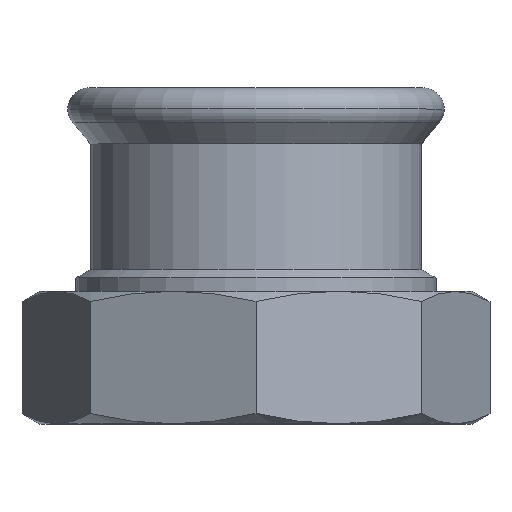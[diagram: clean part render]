
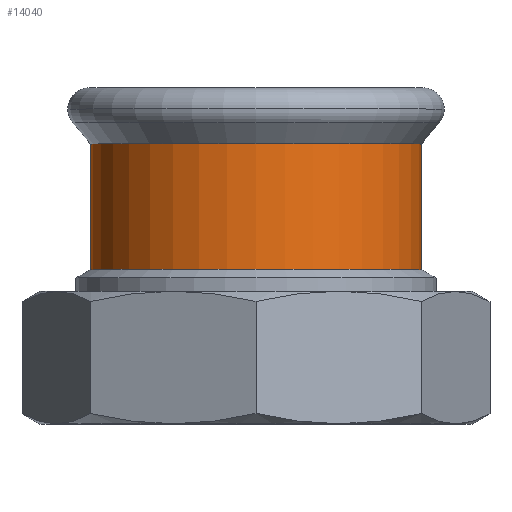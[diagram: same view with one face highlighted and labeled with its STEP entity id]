
A CAD part, top view. The second image highlights one B-rep face of the part: STEP entity #14040.
In plain terms, the highlighted cylindrical face has radius 28.7 mm (diameter 57.4 mm), a partial arc.
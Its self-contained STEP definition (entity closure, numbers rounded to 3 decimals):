
#1180=CARTESIAN_POINT('',(192.683,50.352,
0.));
#1190=VERTEX_POINT('',#1180);
#1370=CARTESIAN_POINT('',(135.283,50.352,0.));
#1380=VERTEX_POINT('',#1370);
#1410=CARTESIAN_POINT('',(163.983,50.352,0.));
#1420=DIRECTION('',(0.,-1.,0.));
#1430=DIRECTION('',(-1.,0.,0.));
#1440=AXIS2_PLACEMENT_3D('',#1410,#1420,#1430);
#1450=CIRCLE('',#1440,28.7);
#1460=EDGE_CURVE('',#1190,#1380,#1450,.T.);
#13490=CARTESIAN_POINT('',(192.683,72.125,0.));
#13500=VERTEX_POINT('',#13490);
#13680=CARTESIAN_POINT('',(135.283,72.125,
0.));
#13690=VERTEX_POINT('',#13680);
#13720=CARTESIAN_POINT('',(163.983,72.125,0.));
#13730=DIRECTION('',(0.,1.,0.));
#13740=DIRECTION('',(-1.,0.,0.));
#13750=AXIS2_PLACEMENT_3D('',#13720,#13730,#13740);
#13760=CIRCLE('',#13750,28.7);
#13820=CARTESIAN_POINT('',(163.983,59.229,0.));
#13830=DIRECTION('',(0.,-1.,0.));
#13840=DIRECTION('',(-1.,0.,0.));
#13850=AXIS2_PLACEMENT_3D('',#13820,#13830,#13840);
#13860=CYLINDRICAL_SURFACE('',#13850,28.7);
#13870=CARTESIAN_POINT('',(135.283,59.229,0.));
#13880=DIRECTION('',(0.,-1.,0.));
#13890=VECTOR('',#13880,1.);
#13900=LINE('',#13870,#13890);
#13910=EDGE_CURVE('',#13690,#1380,#13900,.T.);
#13920=ORIENTED_EDGE('',*,*,#13910,.T.);
#13930=EDGE_CURVE('',#13690,#13500,#13760,.T.);
#13940=ORIENTED_EDGE('',*,*,#13930,.F.);
#13950=CARTESIAN_POINT('',(192.683,59.229,
0.));
#13960=DIRECTION('',(0.,-1.,0.));
#13970=VECTOR('',#13960,1.);
#13980=LINE('',#13950,#13970);
#13990=EDGE_CURVE('',#13500,#1190,#13980,.T.);
#14000=ORIENTED_EDGE('',*,*,#13990,.F.);
#14010=ORIENTED_EDGE('',*,*,#1460,.F.);
#14020=EDGE_LOOP('',(#14010,#14000,#13940,#13920));
#14030=FACE_OUTER_BOUND('',#14020,.T.);
#14040=ADVANCED_FACE('',(#14030),#13860,.T.);
